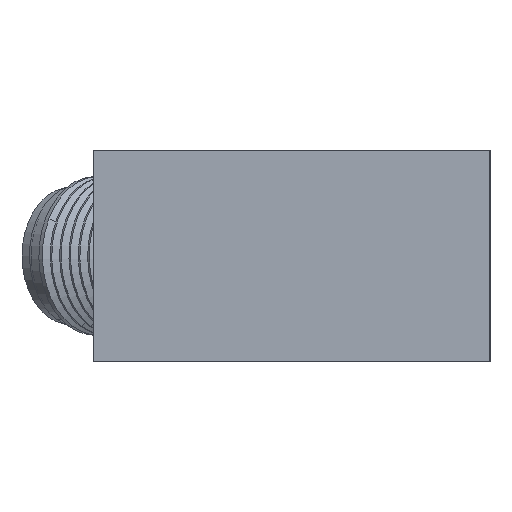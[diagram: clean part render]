
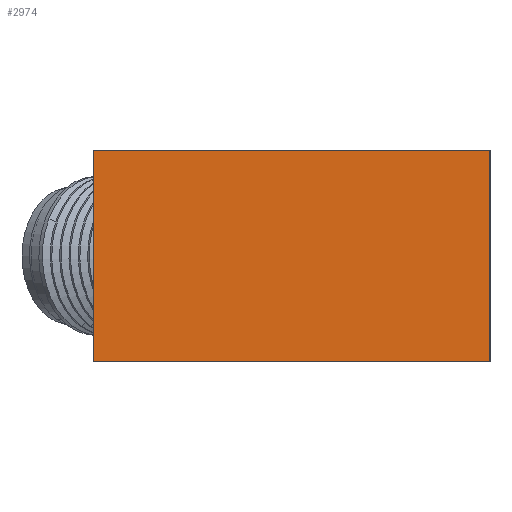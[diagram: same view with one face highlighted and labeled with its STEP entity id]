
A CAD part, left-side view. The second image highlights one B-rep face of the part: STEP entity #2974.
In plain terms, the highlighted planar face has unit normal (-1, 0, 0).
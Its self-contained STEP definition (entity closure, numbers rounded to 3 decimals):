
#152 = CARTESIAN_POINT ( 'NONE',  ( -111.511, 2.968, 8. ) ) ;
#254 = CARTESIAN_POINT ( 'NONE',  ( -111.511, 2.968, 8. ) ) ;
#531 = VERTEX_POINT ( 'NONE', #9855 ) ;
#620 = LINE ( 'NONE', #254, #7914 ) ;
#1532 = DIRECTION ( 'NONE',  ( 1., 0., 0. ) ) ;
#2974 = ADVANCED_FACE ( 'NONE', ( #5373 ), #8105, .F. ) ;
#3450 = DIRECTION ( 'NONE',  ( 0., 0., -1. ) ) ;
#3746 = VERTEX_POINT ( 'NONE', #5790 ) ;
#3828 = DIRECTION ( 'NONE',  ( 0., 1., 0. ) ) ;
#4195 = ORIENTED_EDGE ( 'NONE', *, *, #5914, .F. ) ;
#4431 = ORIENTED_EDGE ( 'NONE', *, *, #6886, .T. ) ;
#4772 = CARTESIAN_POINT ( 'NONE',  ( -111.511, 32.968, -8. ) ) ;
#4783 = EDGE_LOOP ( 'NONE', ( #4431, #4195, #6644, #5407 ) ) ;
#4812 = VECTOR ( 'NONE', #11520, 1000. ) ;
#4927 = VECTOR ( 'NONE', #3450, 1000. ) ;
#5210 = LINE ( 'NONE', #8171, #4927 ) ;
#5373 = FACE_OUTER_BOUND ( 'NONE', #4783, .T. ) ;
#5407 = ORIENTED_EDGE ( 'NONE', *, *, #8724, .F. ) ;
#5790 = CARTESIAN_POINT ( 'NONE',  ( -111.511, 32.968, -8. ) ) ;
#5914 = EDGE_CURVE ( 'NONE', #6639, #531, #9877, .T. ) ;
#6639 = VERTEX_POINT ( 'NONE', #9266 ) ;
#6644 = ORIENTED_EDGE ( 'NONE', *, *, #7121, .T. ) ;
#6886 = EDGE_CURVE ( 'NONE', #8925, #531, #620, .T. ) ;
#7121 = EDGE_CURVE ( 'NONE', #6639, #3746, #5210, .T. ) ;
#7194 = CARTESIAN_POINT ( 'NONE',  ( -111.511, 2.968, 8. ) ) ;
#7914 = VECTOR ( 'NONE', #10758, 1000. ) ;
#8105 = PLANE ( 'NONE',  #8196 ) ;
#8157 = DIRECTION ( 'NONE',  ( 0., 0., -1. ) ) ;
#8171 = CARTESIAN_POINT ( 'NONE',  ( -111.511, 32.968, 8. ) ) ;
#8196 = AXIS2_PLACEMENT_3D ( 'NONE', #7194, #1532, #8157 ) ;
#8594 = LINE ( 'NONE', #4772, #11113 ) ;
#8724 = EDGE_CURVE ( 'NONE', #8925, #3746, #8594, .T. ) ;
#8925 = VERTEX_POINT ( 'NONE', #9853 ) ;
#9266 = CARTESIAN_POINT ( 'NONE',  ( -111.511, 32.968, 8. ) ) ;
#9853 = CARTESIAN_POINT ( 'NONE',  ( -111.511, 2.968, -8. ) ) ;
#9855 = CARTESIAN_POINT ( 'NONE',  ( -111.511, 2.968, 8. ) ) ;
#9877 = LINE ( 'NONE', #152, #4812 ) ;
#10758 = DIRECTION ( 'NONE',  ( 0., 0., 1. ) ) ;
#11113 = VECTOR ( 'NONE', #3828, 1000. ) ;
#11520 = DIRECTION ( 'NONE',  ( 0., -1., 0. ) ) ;
